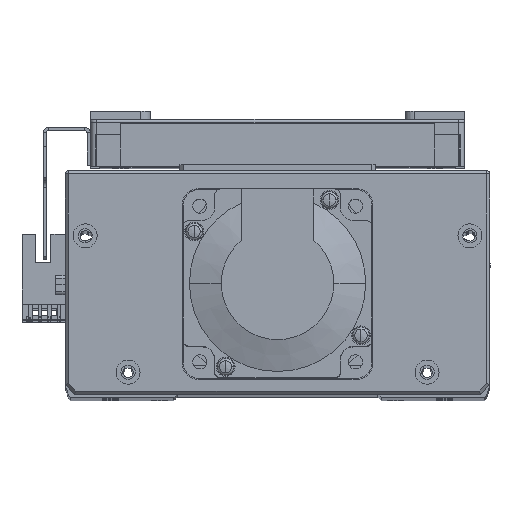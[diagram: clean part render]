
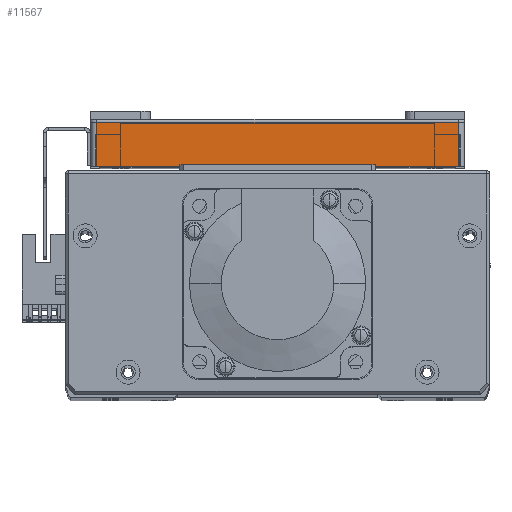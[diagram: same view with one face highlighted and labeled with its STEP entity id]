
A CAD part, top view. The second image highlights one B-rep face of the part: STEP entity #11567.
In plain terms, the highlighted planar face has unit normal (0, 0, 1) as drawn and (-1, 0, 0) by its records, which use the part's own axes.
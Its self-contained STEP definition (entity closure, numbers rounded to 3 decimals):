
#6322 = VERTEX_POINT ( 'NONE', #44061 ) ;
#6350 = VERTEX_POINT ( 'NONE', #44123 ) ;
#6399 = VERTEX_POINT ( 'NONE', #44134 ) ;
#6426 = VERTEX_POINT ( 'NONE', #44158 ) ;
#11567 = ADVANCED_FACE ( 'NONE', ( #38082 ), #45945, .F. ) ;
#12820 = EDGE_LOOP ( 'NONE', ( #18690, #18701, #18786, #18732 ) ) ;
#13734 = EDGE_CURVE ( 'NONE', #6350, #6426, #51736, .T. ) ;
#13746 = EDGE_CURVE ( 'NONE', #6399, #6350, #51715, .T. ) ;
#13747 = EDGE_CURVE ( 'NONE', #6322, #6399, #51724, .T. ) ;
#13766 = EDGE_CURVE ( 'NONE', #6426, #6322, #51786, .T. ) ;
#18690 = ORIENTED_EDGE ( 'NONE', *, *, #13746, .T. ) ;
#18701 = ORIENTED_EDGE ( 'NONE', *, *, #13734, .T. ) ;
#18732 = ORIENTED_EDGE ( 'NONE', *, *, #13747, .T. ) ;
#18786 = ORIENTED_EDGE ( 'NONE', *, *, #13766, .T. ) ;
#38082 = FACE_OUTER_BOUND ( 'NONE', #12820, .T. ) ;
#38939 = AXIS2_PLACEMENT_3D ( 'NONE', #45932, #45946, #45934 ) ;
#44061 = CARTESIAN_POINT ( 'NONE',  ( -95., 0., -57.5 ) ) ;
#44123 = CARTESIAN_POINT ( 'NONE',  ( -95., 14., 57.5 ) ) ;
#44134 = CARTESIAN_POINT ( 'NONE',  ( -95., 0., 57.5 ) ) ;
#44158 = CARTESIAN_POINT ( 'NONE',  ( -95., 14., -57.5 ) ) ;
#45932 = CARTESIAN_POINT ( 'NONE',  ( -95., 15., -59.5 ) ) ;
#45934 = DIRECTION ( 'NONE',  ( 0., 0., -1. ) ) ;
#45945 = PLANE ( 'NONE',  #38939 ) ;
#45946 = DIRECTION ( 'NONE',  ( 1., 0., 0. ) ) ;
#51226 = CARTESIAN_POINT ( 'NONE',  ( -95., 0., -59.5 ) ) ;
#51227 = DIRECTION ( 'NONE',  ( 0., 0., 1. ) ) ;
#51229 = DIRECTION ( 'NONE',  ( 0., 0., -1. ) ) ;
#51237 = CARTESIAN_POINT ( 'NONE',  ( -95., 15., 57.5 ) ) ;
#51243 = DIRECTION ( 'NONE',  ( 0., 1., 0. ) ) ;
#51251 = CARTESIAN_POINT ( 'NONE',  ( -95., 14., -57.5 ) ) ;
#51271 = CARTESIAN_POINT ( 'NONE',  ( -95., 15., -57.5 ) ) ;
#51325 = DIRECTION ( 'NONE',  ( 0., -1., 0. ) ) ;
#51704 = VECTOR ( 'NONE', #51229, 1000. ) ;
#51715 = LINE ( 'NONE', #51237, #51731 ) ;
#51724 = LINE ( 'NONE', #51226, #51728 ) ;
#51728 = VECTOR ( 'NONE', #51227, 1000. ) ;
#51731 = VECTOR ( 'NONE', #51243, 1000. ) ;
#51736 = LINE ( 'NONE', #51251, #51704 ) ;
#51764 = VECTOR ( 'NONE', #51325, 1000. ) ;
#51786 = LINE ( 'NONE', #51271, #51764 ) ;
